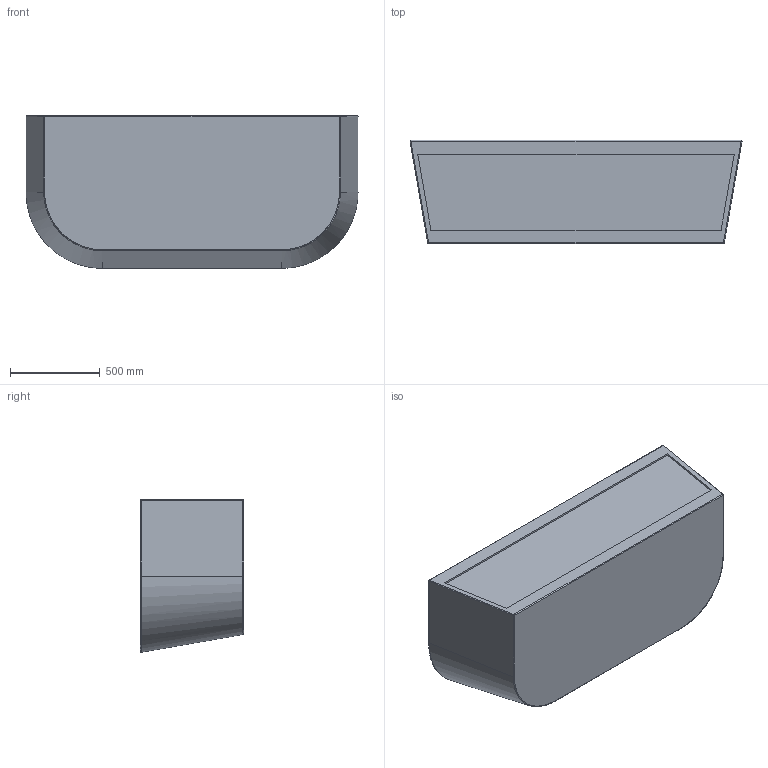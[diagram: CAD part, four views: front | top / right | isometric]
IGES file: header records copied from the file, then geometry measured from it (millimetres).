
Start section: Write IGES format                                    datakit 2008 (c)
Global section: file name: Unknown; native system: DATAKIT Converter; preprocessor: Unknown; author: Unknown; organization: Unknown; date: 950613.180003; units: millimetre
Bounding box: 1848.1 x 575 x 849.05 mm (x, y, z)
Surface area: 6579546.9 mm2 (no closed solid volume)
Topology: 0 solids, 0 shells, 68 faces, 424 edges, 421 vertices
Faces by surface type: revolution 33, bspline 22, offset 13
